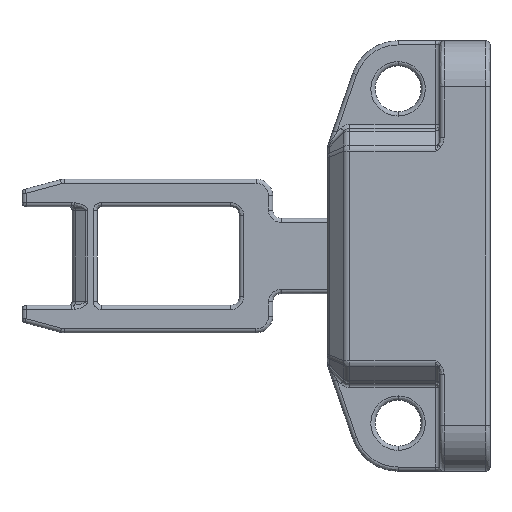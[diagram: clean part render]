
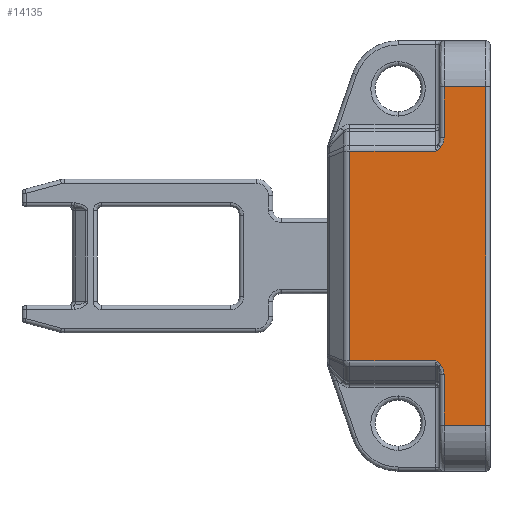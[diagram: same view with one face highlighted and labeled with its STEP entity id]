
A CAD part, left-side view. The second image highlights one B-rep face of the part: STEP entity #14135.
In plain terms, the highlighted planar face has unit normal (1, 0, 0).
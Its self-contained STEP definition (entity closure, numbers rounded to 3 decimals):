
#119 = LINE ( 'NONE', #16658, #10006 ) ;
#127 = CARTESIAN_POINT ( 'NONE',  ( -10., 5.5, -14.157 ) ) ;
#186 = CARTESIAN_POINT ( 'NONE',  ( -10., 5.671, -13.335 ) ) ;
#253 = CARTESIAN_POINT ( 'NONE',  ( -10., 5.93, -12.993 ) ) ;
#355 = CARTESIAN_POINT ( 'NONE',  ( -10., 5.5, -20.25 ) ) ;
#406 = CARTESIAN_POINT ( 'NONE',  ( -10., 5.5, 15.25 ) ) ;
#459 = CARTESIAN_POINT ( 'NONE',  ( -10., 6., 20.25 ) ) ;
#571 = LINE ( 'NONE', #11875, #7038 ) ;
#810 = B_SPLINE_CURVE_WITH_KNOTS ( 'NONE', 3,
 ( #2298, #11318, #1066, #10083, #2356, #11369, #3664, #12622, #4938, #13933, #6260, #15248 ),
 .UNSPECIFIED., .F., .F.,
 ( 4, 1, 1, 1, 1, 2, 2, 4 ),
 ( 0., 0.25, 0.375, 0.438, 0.469, 0.484, 0.5, 1. ),
 .UNSPECIFIED. ) ;
#915 = B_SPLINE_CURVE_WITH_KNOTS ( 'NONE', 3,
 ( #127, #7880, #7934, #186, #9190, #1477 ),
 .UNSPECIFIED., .F., .F.,
 ( 4, 2, 4 ),
 ( 0., 0.5, 1. ),
 .UNSPECIFIED. ) ;
#1066 = CARTESIAN_POINT ( 'NONE',  ( -10., 6.338, 12.652 ) ) ;
#1276 = CARTESIAN_POINT ( 'NONE',  ( -10., 6.5, -12.536 ) ) ;
#1477 = CARTESIAN_POINT ( 'NONE',  ( -10., 5.891, -13.036 ) ) ;
#1533 = LINE ( 'NONE', #459, #2359 ) ;
#1543 = CARTESIAN_POINT ( 'NONE',  ( -10., 6.132, -12.81 ) ) ;
#1586 = ORIENTED_EDGE ( 'NONE', *, *, #12849, .T. ) ;
#1591 = DIRECTION ( 'NONE',  ( 0., -1., 0. ) ) ;
#1765 = B_SPLINE_CURVE_WITH_KNOTS ( 'NONE', 3,
 ( #4090, #253, #7990, #9271, #1543, #10556, #2847, #11832, #4133, #13102, #5443, #14420 ),
 .UNSPECIFIED., .F., .F.,
 ( 4, 1, 1, 1, 1, 2, 2, 4 ),
 ( 0., 0.25, 0.375, 0.437, 0.469, 0.484, 0.5, 1. ),
 .UNSPECIFIED. ) ;
#1929 = CARTESIAN_POINT ( 'NONE',  ( -10., 0.5, -20.25 ) ) ;
#1944 = EDGE_CURVE ( 'NONE', #12693, #5467, #1765, .T. ) ;
#1960 = DIRECTION ( 'NONE',  ( 0., 0., -1. ) ) ;
#2227 = VERTEX_POINT ( 'NONE', #2450 ) ;
#2298 = CARTESIAN_POINT ( 'NONE',  ( -10., 6.5, 12.536 ) ) ;
#2356 = CARTESIAN_POINT ( 'NONE',  ( -10., 6.215, 12.744 ) ) ;
#2359 = VECTOR ( 'NONE', #8193, 1000. ) ;
#2396 = ORIENTED_EDGE ( 'NONE', *, *, #3208, .T. ) ;
#2450 = CARTESIAN_POINT ( 'NONE',  ( -10., 0.5, 20.25 ) ) ;
#2661 = LINE ( 'NONE', #406, #12494 ) ;
#2671 = VERTEX_POINT ( 'NONE', #9842 ) ;
#2847 = CARTESIAN_POINT ( 'NONE',  ( -10., 6.167, -12.781 ) ) ;
#3038 = ORIENTED_EDGE ( 'NONE', *, *, #3887, .T. ) ;
#3084 = ORIENTED_EDGE ( 'NONE', *, *, #15990, .T. ) ;
#3208 = EDGE_CURVE ( 'NONE', #5096, #12131, #11151, .T. ) ;
#3345 = CARTESIAN_POINT ( 'NONE',  ( -10., 19.5, -20.25 ) ) ;
#3446 = ORIENTED_EDGE ( 'NONE', *, *, #3792, .T. ) ;
#3469 = CARTESIAN_POINT ( 'NONE',  ( -10., 5.672, 13.335 ) ) ;
#3524 = CARTESIAN_POINT ( 'NONE',  ( -10., 5.5, 13.937 ) ) ;
#3556 = LINE ( 'NONE', #10153, #10408 ) ;
#3664 = CARTESIAN_POINT ( 'NONE',  ( -10., 6.191, 12.763 ) ) ;
#3792 = EDGE_CURVE ( 'NONE', #12656, #12693, #915, .T. ) ;
#3887 = EDGE_CURVE ( 'NONE', #14129, #12656, #2661, .T. ) ;
#4090 = CARTESIAN_POINT ( 'NONE',  ( -10., 5.891, -13.036 ) ) ;
#4133 = CARTESIAN_POINT ( 'NONE',  ( -10., 6.179, -12.772 ) ) ;
#4312 = CARTESIAN_POINT ( 'NONE',  ( -10., 5.891, -13.036 ) ) ;
#4438 = CARTESIAN_POINT ( 'NONE',  ( -10., 5.5, 20.25 ) ) ;
#4443 = VECTOR ( 'NONE', #1960, 1000. ) ;
#4468 = AXIS2_PLACEMENT_3D ( 'NONE', #15685, #6867, #15851 ) ;
#4606 = ORIENTED_EDGE ( 'NONE', *, *, #14633, .T. ) ;
#4702 = EDGE_CURVE ( 'NONE', #2227, #14336, #15541, .T. ) ;
#4729 = DIRECTION ( 'NONE',  ( 0., 0., 1. ) ) ;
#4756 = CARTESIAN_POINT ( 'NONE',  ( -10., 5.768, 13.17 ) ) ;
#4846 = EDGE_CURVE ( 'NONE', #12131, #12079, #9678, .T. ) ;
#4938 = CARTESIAN_POINT ( 'NONE',  ( -10., 6.185, 12.767 ) ) ;
#5096 = VERTEX_POINT ( 'NONE', #13522 ) ;
#5185 = CARTESIAN_POINT ( 'NONE',  ( -10., 16.786, -12.536 ) ) ;
#5389 = ORIENTED_EDGE ( 'NONE', *, *, #4846, .T. ) ;
#5443 = CARTESIAN_POINT ( 'NONE',  ( -10., 6.358, -12.636 ) ) ;
#5467 = VERTEX_POINT ( 'NONE', #1276 ) ;
#5654 = CARTESIAN_POINT ( 'NONE',  ( -10., 6.5, 12.536 ) ) ;
#6079 = CARTESIAN_POINT ( 'NONE',  ( -10., 5.891, 13.036 ) ) ;
#6260 = CARTESIAN_POINT ( 'NONE',  ( -10., 5.971, 12.949 ) ) ;
#6283 = VECTOR ( 'NONE', #4729, 1000. ) ;
#6324 = ORIENTED_EDGE ( 'NONE', *, *, #15022, .T. ) ;
#6705 = CARTESIAN_POINT ( 'NONE',  ( -10., 5.5, -14.157 ) ) ;
#6813 = FACE_OUTER_BOUND ( 'NONE', #10974, .T. ) ;
#6867 = DIRECTION ( 'NONE',  ( 1., 0., 0. ) ) ;
#7038 = VECTOR ( 'NONE', #1591, 1000. ) ;
#7880 = CARTESIAN_POINT ( 'NONE',  ( -10., 5.5, -13.938 ) ) ;
#7934 = CARTESIAN_POINT ( 'NONE',  ( -10., 5.534, -13.729 ) ) ;
#7990 = CARTESIAN_POINT ( 'NONE',  ( -10., 5.996, -12.927 ) ) ;
#8105 = PLANE ( 'NONE',  #4468 ) ;
#8193 = DIRECTION ( 'NONE',  ( 0., -1., 0. ) ) ;
#8510 = CARTESIAN_POINT ( 'NONE',  ( -10., 5.5, 14.157 ) ) ;
#8759 = EDGE_CURVE ( 'NONE', #14642, #5096, #810, .T. ) ;
#9190 = CARTESIAN_POINT ( 'NONE',  ( -10., 5.767, -13.17 ) ) ;
#9271 = CARTESIAN_POINT ( 'NONE',  ( -10., 6.085, -12.849 ) ) ;
#9409 = DIRECTION ( 'NONE',  ( 0., 0., 1. ) ) ;
#9678 = LINE ( 'NONE', #11270, #6283 ) ;
#9689 = CARTESIAN_POINT ( 'NONE',  ( -10., 0.5, 15.25 ) ) ;
#9842 = CARTESIAN_POINT ( 'NONE',  ( -10., 16.786, 12.536 ) ) ;
#10006 = VECTOR ( 'NONE', #10243, 1000. ) ;
#10083 = CARTESIAN_POINT ( 'NONE',  ( -10., 6.252, 12.715 ) ) ;
#10153 = CARTESIAN_POINT ( 'NONE',  ( -10., 19.5, -12.536 ) ) ;
#10163 = ORIENTED_EDGE ( 'NONE', *, *, #13147, .T. ) ;
#10243 = DIRECTION ( 'NONE',  ( 0., 0., 1. ) ) ;
#10369 = VERTEX_POINT ( 'NONE', #5185 ) ;
#10408 = VECTOR ( 'NONE', #15377, 1000. ) ;
#10556 = CARTESIAN_POINT ( 'NONE',  ( -10., 6.157, -12.79 ) ) ;
#10974 = EDGE_LOOP ( 'NONE', ( #15849, #2396, #5389, #4606, #11309, #1586, #3038, #3446, #14680, #3084, #6324, #10163 ) ) ;
#11079 = VECTOR ( 'NONE', #11082, 1000. ) ;
#11082 = DIRECTION ( 'NONE',  ( 0., 1., 0. ) ) ;
#11151 = B_SPLINE_CURVE_WITH_KNOTS ( 'NONE', 3,
 ( #6079, #4756, #3469, #11239, #3524, #12499 ),
 .UNSPECIFIED., .F., .F.,
 ( 4, 2, 4 ),
 ( 0., 0.5, 1. ),
 .UNSPECIFIED. ) ;
#11239 = CARTESIAN_POINT ( 'NONE',  ( -10., 5.534, 13.729 ) ) ;
#11270 = CARTESIAN_POINT ( 'NONE',  ( -10., 5.5, 15.25 ) ) ;
#11309 = ORIENTED_EDGE ( 'NONE', *, *, #4702, .T. ) ;
#11318 = CARTESIAN_POINT ( 'NONE',  ( -10., 6.43, 12.585 ) ) ;
#11369 = CARTESIAN_POINT ( 'NONE',  ( -10., 6.198, 12.757 ) ) ;
#11832 = CARTESIAN_POINT ( 'NONE',  ( -10., 6.174, -12.776 ) ) ;
#11875 = CARTESIAN_POINT ( 'NONE',  ( -10., 19.5, 12.536 ) ) ;
#12079 = VERTEX_POINT ( 'NONE', #4438 ) ;
#12131 = VERTEX_POINT ( 'NONE', #8510 ) ;
#12494 = VECTOR ( 'NONE', #9409, 1000. ) ;
#12499 = CARTESIAN_POINT ( 'NONE',  ( -10., 5.5, 14.157 ) ) ;
#12622 = CARTESIAN_POINT ( 'NONE',  ( -10., 6.186, 12.766 ) ) ;
#12656 = VERTEX_POINT ( 'NONE', #6705 ) ;
#12693 = VERTEX_POINT ( 'NONE', #4312 ) ;
#12849 = EDGE_CURVE ( 'NONE', #14336, #14129, #14066, .T. ) ;
#13102 = CARTESIAN_POINT ( 'NONE',  ( -10., 6.252, -12.714 ) ) ;
#13147 = EDGE_CURVE ( 'NONE', #2671, #14642, #571, .T. ) ;
#13522 = CARTESIAN_POINT ( 'NONE',  ( -10., 5.891, 13.036 ) ) ;
#13933 = CARTESIAN_POINT ( 'NONE',  ( -10., 6.068, 12.86 ) ) ;
#14066 = LINE ( 'NONE', #3345, #11079 ) ;
#14129 = VERTEX_POINT ( 'NONE', #355 ) ;
#14135 = ADVANCED_FACE ( 'NONE', ( #6813 ), #8105, .T. ) ;
#14336 = VERTEX_POINT ( 'NONE', #1929 ) ;
#14420 = CARTESIAN_POINT ( 'NONE',  ( -10., 6.5, -12.536 ) ) ;
#14633 = EDGE_CURVE ( 'NONE', #12079, #2227, #1533, .T. ) ;
#14642 = VERTEX_POINT ( 'NONE', #5654 ) ;
#14680 = ORIENTED_EDGE ( 'NONE', *, *, #1944, .T. ) ;
#15022 = EDGE_CURVE ( 'NONE', #10369, #2671, #119, .T. ) ;
#15248 = CARTESIAN_POINT ( 'NONE',  ( -10., 5.891, 13.036 ) ) ;
#15377 = DIRECTION ( 'NONE',  ( 0., 1., 0. ) ) ;
#15541 = LINE ( 'NONE', #9689, #4443 ) ;
#15685 = CARTESIAN_POINT ( 'NONE',  ( -10., 19.5, 15.25 ) ) ;
#15849 = ORIENTED_EDGE ( 'NONE', *, *, #8759, .T. ) ;
#15851 = DIRECTION ( 'NONE',  ( 0., 0., -1. ) ) ;
#15990 = EDGE_CURVE ( 'NONE', #5467, #10369, #3556, .T. ) ;
#16658 = CARTESIAN_POINT ( 'NONE',  ( -10., 16.786, 15.25 ) ) ;
